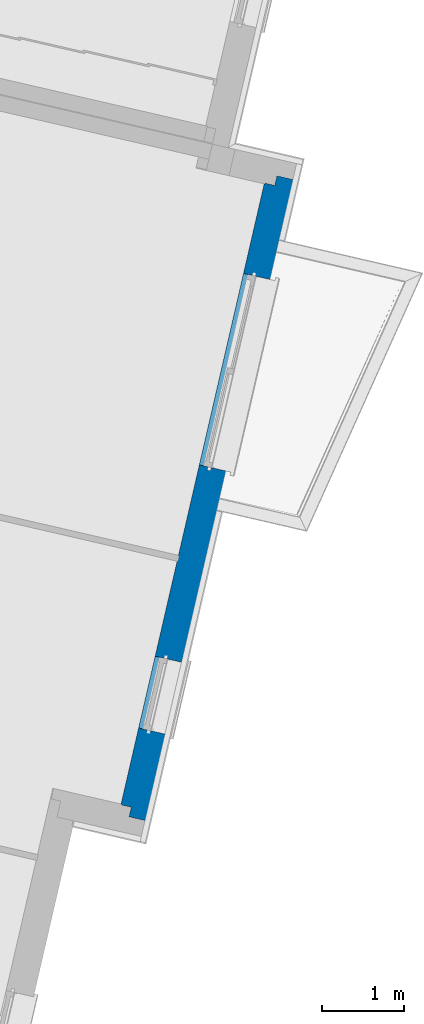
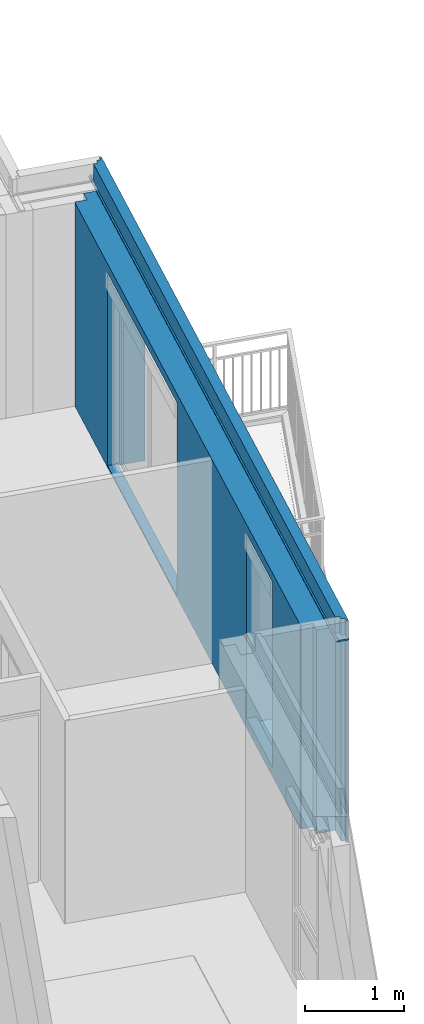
# One storey, part 12 of 62: 1 wall, 2 openings.
"""IFC2X3 building model written with IfcOpenShell, lengths in metres."""

from ifc_helpers import new_model, entity, si_unit, converted_unit, derived_unit, money_unit, direction, frame, origin_with_axes, place, context, subcontext, project, spatial, faceted_brep, material, material_list, type_object, element, save


model = new_model("IFC2X3")

# Units and contexts
model_context = context("Model", 3, precision=1e-05, world=origin_with_axes(), true_north=direction((0.0, 1.0)))
body_context = subcontext(model_context, "Body", "Model", "MODEL_VIEW")
ifc_project = project(units=[si_unit("LENGTHUNIT", "METRE"), si_unit("AREAUNIT", "SQUARE_METRE"), si_unit("VOLUMEUNIT", "CUBIC_METRE"), converted_unit("PLANEANGLEUNIT", "DEGREE", entity("IfcPlaneAngleMeasure", 0.0174532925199), si_unit("PLANEANGLEUNIT", "RADIAN"), dimensions=[0, 0, 0, 0, 0, 0, 0]), si_unit("SOLIDANGLEUNIT", "STERADIAN"), money_unit("EUR"), converted_unit("TIMEUNIT", "Year", entity("IfcTimeMeasure", 31556926.0), si_unit("TIMEUNIT", "SECOND"), dimensions=[0, 0, 1, 0, 0, 0, 0]), si_unit("MASSUNIT", "GRAM", prefix="KILO"), si_unit("THERMODYNAMICTEMPERATUREUNIT", "DEGREE_CELSIUS"), si_unit("LUMINOUSINTENSITYUNIT", "LUMEN"), si_unit("ENERGYUNIT", "JOULE", prefix="MEGA"), derived_unit("THERMALCONDUCTANCEUNIT", [(si_unit("POWERUNIT", "WATT"), 1), (si_unit("LENGTHUNIT", "METRE"), -1), (si_unit("THERMODYNAMICTEMPERATUREUNIT", "KELVIN"), -1)]), derived_unit("SPECIFICHEATCAPACITYUNIT", [(si_unit("ENERGYUNIT", "JOULE"), 1), (si_unit("MASSUNIT", "GRAM", prefix="KILO"), -1), (si_unit("THERMODYNAMICTEMPERATUREUNIT", "KELVIN"), -1)]), derived_unit("MASSDENSITYUNIT", [(si_unit("MASSUNIT", "GRAM", prefix="KILO"), 1), (si_unit("VOLUMEUNIT", "CUBIC_METRE"), -1)])], contexts=[model_context])

# Site, building, storey
site_placement = place(None, origin_with_axes())
site = spatial("IfcSite", under=ifc_project, at=site_placement, Name="Site", CompositionType="ELEMENT")
building_placement = place(site_placement, origin_with_axes())
building = spatial("IfcBuilding", under=site, at=building_placement, Name="Bâtiment", CompositionType="ELEMENT")
storey_placement = place(building_placement, frame((0.0, 0.0, 8.16), z_axis=(0.0, 0.0, 1.0), x_axis=(1.0, 0.0, 0.0)))
storey = spatial("IfcBuildingStorey", under=building, at=storey_placement, Name="R+3", CompositionType="ELEMENT", Elevation=8.16)

# Wall, openings
ifc_material_1 = material(Name="Finition ext - Bardage bois")
ifc_material_2 = material(Name="Bois - Lattage")
ifc_material_3 = material(Name="Béton cellulaire")
ifc_material_4 = material(Name="Mortier")
ifc_material_5 = material(Name="Bloc ELITHERM")
ifc_material_6 = material(Name="Isolation - Polystyrène extrudé")
ifc_material_7 = material(Name="Finition int - Plaque de plâtre")
ifc_material_list = material_list([ifc_material_1, ifc_material_2, ifc_material_3, ifc_material_4, ifc_material_5, ifc_material_6, ifc_material_7])
wall_type = type_object("IfcWallType", Name="Mur ALKERN + planelle 23 BARDAGE courant 395 x 2740", PredefinedType="USERDEFINED")
wall_placement = place(storey_placement, frame((-1.20271274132, 2.40081786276, 0.0), z_axis=(0.0, 0.0, 1.0), x_axis=(-0.22487619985, -0.974387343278, 0.0)))
wall = element("IfcWall", 1, at=wall_placement, inside=storey, type_object=wall_type, material=ifc_material_list, Name="Mue bloc ALKERN isolé", ObjectType="SOLIDWALL", context=body_context, shape_type="Brep", body=[
    faceted_brep([(1.48326315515, 0.035, 0.02), (1.48326315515, 0.035, 0.0), (1.14326315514, 0.035, 0.0), (1.13328262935, 0.035, 0.0106237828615), (0.993243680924, 0.035, 0.0193762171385), (0.983263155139, 0.035, 0.01), (0.983263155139, 0.035, 0.0), (-0.00999999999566, 0.035, 0.0), (-0.00999999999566, 0.035, 2.50999999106), (-0.0349999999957, 0.035, 2.50999999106), (-0.0349999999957, 0.035, 2.52999999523), (0.0980000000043, 0.035, 2.53), (0.0980000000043, 0.035, 2.54), (-0.00999999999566, 0.035, 2.53999999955), (-0.00999999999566, 0.035, 2.74), (8.50660943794, 0.035, 2.74), (8.50660943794, 0.035, 2.53999999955), (8.39860943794, 0.035, 2.54), (8.39860943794, 0.035, 2.53), (8.53160943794, 0.035, 2.52999999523), (8.53160943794, 0.035, 2.50999999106), (8.50660943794, 0.035, 2.50999999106), (8.50660943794, 0.035, 0.0), (4.38326315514, 0.035, 0.0), (4.38326315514, 0.035, 0.01), (4.37328262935, 0.035, 0.0193762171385), (4.23324368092, 0.035, 0.0106237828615), (4.22326315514, 0.035, 0.0), (3.88326315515, 0.035, 0.0), (3.88326315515, 0.035, 0.02), (3.88326315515, 0.035, 2.22), (1.48326315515, 0.035, 2.22), (7.18248923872, 0.035, 0.06), (7.18248923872, 0.035, 0.12), (7.18248923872, 0.035, 2.22), (6.28248923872, 0.035, 2.22), (6.28248923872, 0.035, 0.12), (6.28248923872, 0.035, 0.06), (1.48326315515, 0.01, 0.02), (1.48326315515, 0.01, 0.0), (1.14326315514, 0.01, 0.0), (1.13328262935, 0.01, 0.0106237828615), (0.993243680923, 0.01, 0.0193762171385), (0.983263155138, 0.01, 0.01), (0.983263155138, 0.01, 0.0), (-0.00999999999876, 0.01, 0.0), (-0.00999999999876, 0.01, 2.50999999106), (-0.0349999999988, 0.01, 2.50999999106), (-0.0349999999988, 0.01, 2.52999999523), (0.0980000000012, 0.01, 2.53), (0.0980000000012, 0.01, 2.54), (-0.00999999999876, 0.01, 2.53999999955), (-0.00999999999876, 0.01, 2.74), (8.50660943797, 0.01, 2.74), (8.50660943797, 0.01, 2.53999999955), (8.39860943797, 0.01, 2.54), (8.39860943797, 0.01, 2.53), (8.53160943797, 0.01, 2.52999999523), (8.53160943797, 0.01, 2.50999999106), (8.50660943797, 0.01, 2.50999999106), (8.50660943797, 0.01, 0.0), (4.38326315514, 0.01, 0.0), (4.38326315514, 0.01, 0.01), (4.37328262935, 0.01, 0.0193762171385), (4.23324368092, 0.01, 0.0106237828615), (4.22326315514, 0.01, 0.0), (3.88326315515, 0.01, 0.0), (3.88326315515, 0.01, 0.02), (3.88326315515, 0.01, 2.22), (1.48326315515, 0.01, 2.22), (7.18248923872, 0.01, 0.06), (7.18248923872, 0.01, 0.12), (7.18248923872, 0.01, 2.22), (6.28248923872, 0.01, 2.22), (6.28248923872, 0.01, 0.12), (6.28248923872, 0.01, 0.06)], [[[0, 1, 2, 3, 4, 5, 6, 7, 8, 9, 10, 11, 12, 13, 14, 15, 16, 17, 18, 19, 20, 21, 22, 23, 24, 25, 26, 27, 28, 29, 30, 31], [32, 33, 34, 35, 36, 37]], [[1, 0, 38, 39]], [[1, 39, 40, 2]], [[41, 3, 2, 40]], [[42, 4, 3, 41]], [[43, 5, 4, 42]], [[44, 6, 5, 43]], [[7, 6, 44, 45]], [[46, 8, 7, 45]], [[46, 47, 9, 8]], [[47, 48, 10, 9]], [[48, 49, 11, 10]], [[50, 12, 11, 49]], [[51, 13, 12, 50]], [[51, 52, 14, 13]], [[15, 14, 52, 53]], [[54, 16, 15, 53]], [[17, 16, 54, 55]], [[56, 18, 17, 55]], [[19, 18, 56, 57]], [[20, 19, 57, 58]], [[59, 21, 20, 58]], [[60, 22, 21, 59]], [[60, 61, 23, 22]], [[62, 24, 23, 61]], [[63, 25, 24, 62]], [[64, 26, 25, 63]], [[64, 65, 27, 26]], [[66, 28, 27, 65]], [[67, 29, 28, 66]], [[29, 67, 68, 30]], [[30, 68, 69, 31]], [[38, 0, 31, 69]], [[32, 70, 71, 33]], [[72, 34, 33, 71]], [[73, 35, 34, 72]], [[35, 73, 74, 36]], [[74, 75, 37, 36]], [[75, 70, 32, 37]], [[39, 38, 69, 68, 67, 66, 65, 64, 63, 62, 61, 60, 59, 58, 57, 56, 55, 54, 53, 52, 51, 50, 49, 48, 47, 46, 45, 44, 43, 42, 41, 40], [75, 74, 73, 72, 71, 70]]]),
    faceted_brep([(1.48326315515, 0.00999998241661, 0.02), (1.48326315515, 0.00999998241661, 0.0), (1.14326315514, 0.00999998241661, 0.0), (1.13328262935, 0.00999998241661, 0.0106237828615), (0.993243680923, 0.00999998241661, 0.0193762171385), (0.983263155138, 0.00999998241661, 0.01), (0.983263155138, 0.00999998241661, 0.0), (0.0300000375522, 0.00999998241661, 0.0), (0.0300000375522, 0.00999998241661, 2.50999999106), (-0.0349999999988, 0.00999998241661, 2.50999999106), (-0.0349999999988, 0.00999998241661, 2.52999999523), (0.0980000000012, 0.00999998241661, 2.53), (0.0980000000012, 0.00999998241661, 2.54), (0.0300000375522, 0.00999998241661, 2.53999999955), (0.0300000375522, 0.00999998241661, 2.74), (8.46660940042, 0.00999998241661, 2.74), (8.46660940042, 0.00999998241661, 2.53999999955), (8.39860943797, 0.00999998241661, 2.54), (8.39860943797, 0.00999998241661, 2.53), (8.53160943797, 0.00999998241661, 2.52999999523), (8.53160943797, 0.00999998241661, 2.50999999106), (8.46660940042, 0.00999998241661, 2.50999999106), (8.46660940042, 0.00999998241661, 0.0), (4.38326315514, 0.00999998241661, 0.0), (4.38326315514, 0.00999998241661, 0.01), (4.37328262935, 0.00999998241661, 0.0193762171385), (4.23324368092, 0.00999998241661, 0.0106237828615), (4.22326315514, 0.00999998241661, 0.0), (3.88326315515, 0.00999998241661, 0.0), (3.88326315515, 0.00999998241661, 0.02), (3.88326315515, 0.00999998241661, 2.22), (1.48326315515, 0.00999998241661, 2.22), (7.18248923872, 0.00999998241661, 0.06), (7.18248923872, 0.00999998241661, 0.12), (7.18248923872, 0.00999998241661, 2.22), (6.28248923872, 0.00999998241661, 2.22), (6.28248923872, 0.00999998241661, 0.12), (6.28248923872, 0.00999998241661, 0.06), (1.48326315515, -0.030000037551, 0.02), (1.48326315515, -0.0300000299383, 0.0), (1.14326315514, -0.0300000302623, 0.0), (1.13328262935, -0.0300000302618, 0.0106237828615), (0.99324368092, -0.0300000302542, 0.0193762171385), (0.983263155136, -0.0300000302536, 0.01), (0.983263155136, -0.0300000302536, 0.0), (0.0300000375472, -0.030000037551, 0.0), (0.0300000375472, -0.030000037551, 2.50999999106), (-0.0350000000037, -0.030000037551, 2.50999999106), (-0.0350000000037, -0.030000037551, 2.52999999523), (0.0979999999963, -0.030000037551, 2.53), (0.0979999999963, -0.030000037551, 2.54), (0.0300000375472, -0.030000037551, 2.53999999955), (0.0300000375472, -0.030000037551, 2.74), (8.46660940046, -0.030000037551, 2.74), (8.46660940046, -0.030000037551, 2.53999999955), (8.39860943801, -0.030000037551, 2.54), (8.39860943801, -0.030000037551, 2.53), (8.53160943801, -0.030000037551, 2.52999999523), (8.53160943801, -0.030000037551, 2.50999999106), (8.46660940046, -0.030000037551, 2.50999999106), (8.46660940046, -0.030000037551, 0.0), (4.38326315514, -0.0300000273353, 0.0), (4.38326315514, -0.0300000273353, 0.01), (4.37328262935, -0.0300000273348, 0.0193762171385), (4.23324368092, -0.0300000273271, 0.0106237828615), (4.22326315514, -0.0300000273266, 0.0), (3.88326315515, -0.0300000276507, 0.0), (3.88326315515, -0.030000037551, 0.02), (3.88326315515, -0.030000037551, 2.22), (1.48326315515, -0.030000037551, 2.22), (7.18248923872, -0.030000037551, 0.06), (7.18248923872, -0.030000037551, 0.12), (7.18248923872, -0.030000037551, 2.22), (6.28248923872, -0.030000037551, 2.22), (6.28248923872, -0.030000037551, 0.12), (6.28248923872, -0.030000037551, 0.06)], [[[0, 1, 2, 3, 4, 5, 6, 7, 8, 9, 10, 11, 12, 13, 14, 15, 16, 17, 18, 19, 20, 21, 22, 23, 24, 25, 26, 27, 28, 29, 30, 31], [32, 33, 34, 35, 36, 37]], [[1, 0, 38, 39]], [[1, 39, 40, 2]], [[41, 3, 2, 40]], [[42, 4, 3, 41]], [[43, 5, 4, 42]], [[44, 6, 5, 43]], [[7, 6, 44, 45]], [[46, 8, 7, 45]], [[9, 8, 46, 47]], [[47, 48, 10, 9]], [[48, 49, 11, 10]], [[50, 12, 11, 49]], [[50, 51, 13, 12]], [[51, 52, 14, 13]], [[15, 14, 52, 53]], [[54, 16, 15, 53]], [[17, 16, 54, 55]], [[56, 18, 17, 55]], [[19, 18, 56, 57]], [[20, 19, 57, 58]], [[58, 59, 21, 20]], [[60, 22, 21, 59]], [[60, 61, 23, 22]], [[62, 24, 23, 61]], [[63, 25, 24, 62]], [[64, 26, 25, 63]], [[64, 65, 27, 26]], [[66, 28, 27, 65]], [[67, 29, 28, 66]], [[29, 67, 68, 30]], [[30, 68, 69, 31]], [[38, 0, 31, 69]], [[32, 70, 71, 33]], [[72, 34, 33, 71]], [[73, 35, 34, 72]], [[35, 73, 74, 36]], [[74, 75, 37, 36]], [[75, 70, 32, 37]], [[39, 38, 69, 68, 67, 66, 65, 64, 63, 62, 61, 60, 59, 58, 57, 56, 55, 54, 53, 52, 51, 50, 49, 48, 47, 46, 45, 44, 43, 42, 41, 40], [75, 74, 73, 72, 71, 70]]]),
    faceted_brep([(0.0779999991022, -0.03, 2.53999999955), (0.0779999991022, -0.03, 2.74), (8.41860943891, -0.03, 2.74), (8.41860943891, -0.03, 2.53999999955), (8.39860943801, -0.03, 2.54), (8.39860943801, -0.03, 2.53), (8.46660943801, -0.03, 2.53), (8.50660942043, -0.03, 2.52999999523), (8.53160943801, -0.03, 2.52999999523), (8.53160944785, -0.03, 2.5200000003), (-0.0350000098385, -0.03, 2.5200000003), (-0.0350000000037, -0.03, 2.52999999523), (-0.00999998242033, -0.03, 2.52999999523), (0.0299999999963, -0.03, 2.53), (0.0979999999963, -0.03, 2.53), (0.0979999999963, -0.03, 2.54), (0.0779999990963, -0.0780000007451, 2.74), (0.0779999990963, -0.0780000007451, 2.53999999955), (8.41860943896, -0.0780000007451, 2.74), (8.41860943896, -0.0780000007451, 2.53999999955), (8.39860943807, -0.0780000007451, 2.54), (8.39860943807, -0.0780000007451, 2.53), (8.46660943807, -0.0780000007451, 2.53), (8.50660942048, -0.0780000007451, 2.52999999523), (8.53160943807, -0.0780000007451, 2.52999999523), (8.5316094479, -0.0780000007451, 2.5200000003), (-0.0350000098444, -0.0780000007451, 2.5200000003), (-0.0350000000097, -0.0780000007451, 2.52999999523), (-0.00999998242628, -0.0780000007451, 2.52999999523), (0.0299999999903, -0.0780000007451, 2.53), (0.0979999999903, -0.0780000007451, 2.53), (0.0979999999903, -0.0780000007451, 2.54)], [[[0, 1, 2, 3, 4, 5, 6, 7, 8, 9, 10, 11, 12, 13, 14, 15]], [[16, 1, 0, 17]], [[1, 16, 18, 2]], [[3, 2, 18, 19]], [[3, 19, 20, 4]], [[5, 4, 20, 21]], [[6, 5, 21, 22]], [[6, 22, 23, 7]], [[7, 23, 24, 8]], [[8, 24, 25, 9]], [[25, 26, 10, 9]], [[27, 11, 10, 26]], [[28, 12, 11, 27]], [[29, 13, 12, 28]], [[14, 13, 29, 30]], [[15, 14, 30, 31]], [[17, 0, 15, 31]], [[16, 17, 31, 30, 29, 28, 27, 26, 25, 24, 23, 22, 21, 20, 19, 18]]]),
    faceted_brep([(-0.0350000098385, -0.03, 2.51), (-0.0350000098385, -0.03, 2.52), (8.53160944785, -0.03, 2.52), (8.53160944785, -0.03, 2.51), (-0.0350000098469, -0.098, 2.52), (-0.0350000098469, -0.098, 2.51), (8.53160944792, -0.098, 2.52), (8.53160944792, -0.098, 2.51)], [[[0, 1, 2, 3]], [[4, 1, 0, 5]], [[1, 4, 6, 2]], [[3, 2, 6, 7]], [[5, 0, 3, 7]], [[4, 5, 7, 6]]]),
    faceted_brep([(1.48326315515, -0.03, 0.02), (1.48326315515, -0.03, 0.0), (0.229999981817, -0.03, 0.0), (0.229999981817, -0.03, 2.50999999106), (8.26660945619, -0.03, 2.50999999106), (8.26660945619, -0.03, 0.0), (3.88326315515, -0.03, 0.0), (3.88326315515, -0.03, 0.02), (3.88326315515, -0.03, 2.22), (1.48326315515, -0.03, 2.22), (7.18248923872, -0.03, 0.06), (7.18248923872, -0.03, 0.12), (7.18248923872, -0.03, 2.22), (6.28248923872, -0.03, 2.22), (6.28248923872, -0.03, 0.12), (6.28248923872, -0.03, 0.06), (1.48326315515, -0.229999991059, 0.02), (1.48326315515, -0.229999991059, 0.0), (1.48326315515, -0.18, 2.22), (1.48326315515, -0.18, 2.4), (1.48326315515, -0.229999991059, 2.4), (1.48326315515, -0.229999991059, 2.22), (0.229999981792, -0.229999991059, 0.0), (0.229999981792, -0.229999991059, 2.50999999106), (0.229999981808, -0.0979999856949, 2.50999999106), (8.26660945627, -0.0979999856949, 2.50999999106), (8.26660945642, -0.229999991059, 2.50999999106), (8.26660945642, -0.229999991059, 0.0), (3.88326315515, -0.229999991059, 0.0), (3.88326315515, -0.229999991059, 0.02), (3.88326315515, -0.229999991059, 2.22), (3.88326315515, -0.229999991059, 2.4), (3.88326315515, -0.18, 2.4), (3.88326315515, -0.18, 2.22), (7.18248923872, -0.18, 2.4), (7.18248923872, -0.18, 2.22), (7.18248923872, -0.229999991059, 0.06), (7.18248923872, -0.229999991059, 0.12), (7.18248923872, -0.229999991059, 2.22), (7.18248923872, -0.229999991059, 2.4), (6.28248923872, -0.18, 2.22), (6.28248923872, -0.18, 2.4), (6.28248923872, -0.229999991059, 2.4), (6.28248923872, -0.229999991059, 2.22), (6.28248923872, -0.229999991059, 0.12), (6.28248923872, -0.229999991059, 0.06)], [[[0, 1, 2, 3, 4, 5, 6, 7, 8, 9], [10, 11, 12, 13, 14, 15]], [[16, 17, 1, 0, 9, 18, 19, 20, 21]], [[1, 17, 22, 2]], [[3, 2, 22, 23, 24]], [[3, 24, 25, 4]], [[4, 25, 26, 27, 5]], [[28, 6, 5, 27]], [[7, 6, 28, 29, 30, 31, 32, 33, 8]], [[18, 9, 8, 33]], [[34, 35, 12, 11, 10, 36, 37, 38, 39]], [[40, 13, 12, 35]], [[41, 42, 43, 44, 45, 15, 14, 13, 40]], [[10, 15, 45, 36]], [[17, 16, 21, 20, 31, 30, 29, 28, 27, 26, 23, 22], [39, 38, 37, 36, 45, 44, 43, 42]], [[33, 32, 19, 18]], [[20, 19, 32, 31]], [[24, 23, 26, 25]], [[35, 34, 41, 40]], [[42, 41, 34, 39]]]),
    faceted_brep([(1.48326315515, -0.251, 0.02), (1.48326315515, -0.251, 0.0), (1.48326315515, -0.230000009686, 0.0), (1.48326315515, -0.230000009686, 0.02), (1.48326315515, -0.230000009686, 2.22), (1.48326315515, -0.230000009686, 2.4), (1.48326315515, -0.350000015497, 2.4), (1.48326315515, -0.350000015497, 2.22), (1.48326315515, -0.350000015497, 0.02), (3.88326315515, -0.251, 0.02), (3.88326315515, -0.251, 0.0), (3.88326315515, -0.230000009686, 0.0), (8.14660942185, -0.230000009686, 0.0), (8.14660942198, -0.350000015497, 0.0), (0.350000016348, -0.350000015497, 0.0), (0.350000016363, -0.230000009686, 0.0), (3.88326315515, -0.230000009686, 0.02), (3.88326315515, -0.230000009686, 2.22), (3.88326315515, -0.230000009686, 2.4), (0.350000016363, -0.230000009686, 2.50999999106), (8.14660942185, -0.230000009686, 2.50999999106), (6.28248923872, -0.230000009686, 0.06), (7.18248923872, -0.230000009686, 0.06), (7.18248923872, -0.230000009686, 0.12), (7.18248923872, -0.230000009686, 2.22), (7.18248923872, -0.230000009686, 2.4), (6.28248923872, -0.230000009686, 2.4), (6.28248923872, -0.230000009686, 2.22), (6.28248923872, -0.230000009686, 0.12), (3.88326315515, -0.350000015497, 2.4), (8.14660942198, -0.350000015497, 2.50999999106), (0.350000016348, -0.350000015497, 2.50999999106), (7.18248923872, -0.350000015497, 2.4), (7.18248923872, -0.350000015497, 2.22), (7.18248923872, -0.350000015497, 0.12), (6.28248923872, -0.350000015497, 0.12), (6.28248923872, -0.350000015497, 2.22), (6.28248923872, -0.350000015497, 2.4), (3.88326315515, -0.350000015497, 2.22), (3.88326315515, -0.350000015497, 0.02), (7.18248923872, -0.251, 0.06), (6.28248923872, -0.251, 0.06), (7.18248923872, -0.251, 0.12), (6.28248923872, -0.251, 0.12)], [[[0, 1, 2, 3, 4, 5, 6, 7, 8]], [[0, 9, 10, 1]], [[10, 11, 12, 13, 14, 15, 2, 1]], [[11, 16, 17, 18, 5, 4, 3, 2, 15, 19, 20, 12], [21, 22, 23, 24, 25, 26, 27, 28]], [[18, 29, 6, 5]], [[14, 13, 30, 31], [32, 33, 34, 35, 36, 37], [8, 7, 6, 29, 38, 39]], [[9, 0, 8, 39]], [[16, 11, 10, 9, 39, 38, 29, 18, 17]], [[20, 30, 13, 12]], [[19, 15, 14, 31]], [[31, 30, 20, 19]], [[40, 22, 21, 41]], [[23, 22, 40, 42, 34, 33, 32, 25, 24]], [[26, 25, 32, 37]], [[43, 41, 21, 28, 27, 26, 37, 36, 35]], [[34, 42, 43, 35]], [[41, 43, 42, 40]]]),
    faceted_brep([(8.13660942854, -0.350000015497, 0.0), (0.360000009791, -0.350000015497, 0.0), (0.360000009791, -0.350000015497, 2.50999999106), (8.13660942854, -0.350000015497, 2.50999999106), (7.18248923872, -0.350000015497, 2.22), (7.18248923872, -0.350000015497, 2.4), (6.28248923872, -0.350000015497, 2.4), (6.28248923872, -0.350000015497, 2.22), (6.28248923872, -0.350000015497, 0.12), (7.18248923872, -0.350000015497, 0.12), (3.88326315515, -0.350000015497, 2.22), (3.88326315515, -0.350000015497, 2.4), (1.48326315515, -0.350000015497, 2.4), (1.48326315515, -0.350000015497, 2.22), (1.48326315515, -0.350000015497, 0.02), (3.88326315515, -0.350000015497, 0.02), (8.13660942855, -0.35999998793, 0.0), (0.36000000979, -0.35999998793, 0.0), (0.36000000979, -0.35999998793, 2.50999999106), (8.13660942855, -0.35999998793, 2.50999999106), (7.18248923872, -0.35999998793, 2.22), (7.18248923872, -0.35999998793, 2.4), (7.18248923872, -0.35999998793, 0.12), (6.28248923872, -0.35999998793, 2.4), (6.28248923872, -0.35999998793, 2.22), (6.28248923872, -0.35999998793, 0.12), (3.88326315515, -0.35999998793, 2.22), (3.88326315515, -0.35999998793, 2.4), (3.88326315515, -0.35999998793, 0.02), (1.48326315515, -0.35999998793, 2.4), (1.48326315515, -0.35999998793, 2.22), (1.48326315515, -0.35999998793, 0.02)], [[[0, 1, 2, 3], [4, 5, 6, 7, 8, 9], [10, 11, 12, 13, 14, 15]], [[16, 17, 1, 0]], [[17, 18, 2, 1]], [[3, 2, 18, 19]], [[16, 0, 3, 19]], [[20, 21, 5, 4, 9, 22]], [[21, 23, 6, 5]], [[7, 6, 23, 24, 25, 8]], [[22, 9, 8, 25]], [[26, 27, 11, 10, 15, 28]], [[12, 11, 27, 29]], [[13, 12, 29, 30, 31, 14]], [[14, 31, 28, 15]], [[19, 18, 17, 16], [21, 20, 22, 25, 24, 23], [27, 26, 28, 31, 30, 29]]]),
])
opening_1_placement = place(wall_placement, frame((6.73248923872, 0.0, 0.12), z_axis=(0.0, 0.0, 1.0), x_axis=(1.0, 0.0, 0.0)))
element("IfcOpeningElement", 2, at=opening_1_placement, cuts=wall, Name="MEN 98", context=body_context, shape_type="Brep", body=[
    faceted_brep([(-0.45, -0.84999998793, 0.0), (-0.45, -0.84999998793, 2.1), (-0.45, -0.21, 2.1), (-0.45, -0.21, 0.0), (0.45, -0.84999998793, 0.0), (0.45, -0.84999998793, 2.1), (0.45, -0.21, 2.1), (0.45, -0.21, 0.0)], [[[0, 1, 2, 3]], [[0, 4, 5, 1]], [[1, 5, 6, 2]], [[3, 2, 6, 7]], [[4, 0, 3, 7]], [[5, 4, 7, 6]]]),
    faceted_brep([(-0.45, 0.42999998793, 0.0), (0.45, 0.42999998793, 0.0), (0.45, -0.21, 0.0), (-0.45, -0.21, 0.0), (-0.45, 0.42999998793, 2.1), (0.45, 0.42999998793, 2.1), (0.45, -0.21, 2.1), (-0.45, -0.21, 2.1)], [[[0, 1, 2, 3]], [[0, 4, 5, 1]], [[1, 5, 6, 2]], [[3, 2, 6, 7]], [[4, 0, 3, 7]], [[5, 4, 7, 6]]]),
    faceted_brep([(-0.45, 0.42999998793, 0.0), (0.45, 0.42999998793, 0.0), (0.45, -0.21, 0.0), (-0.45, -0.21, 0.0), (-0.45, 0.42999998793, 2.1), (0.45, 0.42999998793, 2.1), (0.45, -0.21, 2.1), (-0.45, -0.21, 2.1)], [[[0, 1, 2, 3]], [[0, 4, 5, 1]], [[1, 5, 6, 2]], [[3, 2, 6, 7]], [[4, 0, 3, 7]], [[5, 4, 7, 6]]]),
    faceted_brep([(-0.45, -0.81999998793, 2.1), (-0.45, -0.81999998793, 2.28), (-0.45, -0.18, 2.28), (-0.45, -0.18, 2.1), (0.45, -0.81999998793, 2.1), (0.45, -0.81999998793, 2.28), (0.45, -0.18, 2.28), (0.45, -0.18, 2.1)], [[[0, 1, 2, 3]], [[0, 4, 5, 1]], [[1, 5, 6, 2]], [[3, 2, 6, 7]], [[4, 0, 3, 7]], [[5, 4, 7, 6]]]),
    faceted_brep([(-0.45, 0.38899998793, 0.0), (-0.45, 0.38899998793, -0.06), (-0.45, -0.251, -0.06), (-0.45, -0.251, 0.0), (0.45, 0.38899998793, 0.0), (0.45, 0.38899998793, -0.06), (0.45, -0.251, -0.06), (0.45, -0.251, 0.0)], [[[0, 1, 2, 3]], [[0, 4, 5, 1]], [[1, 5, 6, 2]], [[3, 2, 6, 7]], [[4, 0, 3, 7]], [[5, 4, 7, 6]]]),
])
opening_2_placement = place(wall_placement, frame((2.68326315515, 0.0, 0.02), z_axis=(0.0, 0.0, 1.0), x_axis=(1.0, 0.0, 0.0)))
element("IfcOpeningElement", 3, at=opening_2_placement, cuts=wall, Name="MEN 99", context=body_context, shape_type="Brep", body=[
    faceted_brep([(-1.2, -0.21, 0.0), (1.2, -0.21, 0.0), (1.2, -0.84999998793, 0.0), (-1.2, -0.84999998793, 0.0), (-1.2, -0.21, 2.2), (1.2, -0.21, 2.2), (1.2, -0.84999998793, 2.2), (-1.2, -0.84999998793, 2.2)], [[[0, 1, 2, 3]], [[0, 4, 5, 1]], [[1, 5, 6, 2]], [[3, 2, 6, 7]], [[4, 0, 3, 7]], [[5, 4, 7, 6]]]),
    faceted_brep([(-1.2, -0.21, 0.0), (-1.2, -0.21, 2.2), (-1.2, 0.42999998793, 2.2), (-1.2, 0.42999998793, 0.0), (1.2, -0.21, 0.0), (1.2, -0.21, 2.2), (1.2, 0.42999998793, 2.2), (1.2, 0.42999998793, 0.0)], [[[0, 1, 2, 3]], [[0, 4, 5, 1]], [[1, 5, 6, 2]], [[3, 2, 6, 7]], [[4, 0, 3, 7]], [[5, 4, 7, 6]]]),
    faceted_brep([(-1.2, -0.21, 0.0), (-1.2, -0.21, 2.2), (-1.2, 0.42999998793, 2.2), (-1.2, 0.42999998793, 0.0), (1.2, -0.21, 0.0), (1.2, -0.21, 2.2), (1.2, 0.42999998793, 2.2), (1.2, 0.42999998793, 0.0)], [[[0, 1, 2, 3]], [[0, 4, 5, 1]], [[1, 5, 6, 2]], [[3, 2, 6, 7]], [[4, 0, 3, 7]], [[5, 4, 7, 6]]]),
    faceted_brep([(-1.2, -0.18, 2.2), (1.2, -0.18, 2.2), (1.2, -0.81999998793, 2.2), (-1.2, -0.81999998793, 2.2), (-1.2, -0.18, 2.38), (1.2, -0.18, 2.38), (1.2, -0.81999998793, 2.38), (-1.2, -0.81999998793, 2.38)], [[[0, 1, 2, 3]], [[0, 4, 5, 1]], [[1, 5, 6, 2]], [[3, 2, 6, 7]], [[4, 0, 3, 7]], [[5, 4, 7, 6]]]),
    faceted_brep([(-1.2, -0.251, 0.0), (1.2, -0.251, 0.0), (1.2, 0.38899998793, 0.0), (-1.2, 0.38899998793, 0.0), (-1.2, -0.251, -0.06), (1.2, -0.251, -0.06), (1.2, 0.38899998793, -0.06), (-1.2, 0.38899998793, -0.06)], [[[0, 1, 2, 3]], [[0, 4, 5, 1]], [[1, 5, 6, 2]], [[3, 2, 6, 7]], [[4, 0, 3, 7]], [[5, 4, 7, 6]]]),
])

save(model, "model.ifc")
